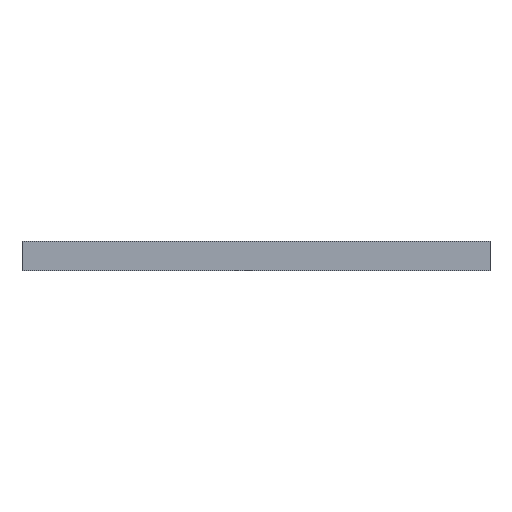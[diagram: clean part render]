
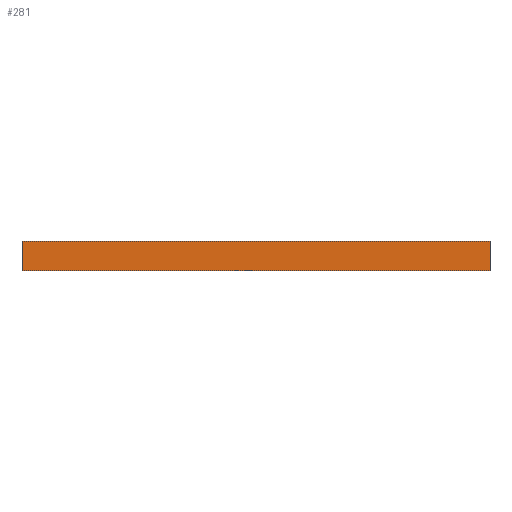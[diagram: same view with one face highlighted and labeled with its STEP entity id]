
A CAD part, front view. The second image highlights one B-rep face of the part: STEP entity #281.
In plain terms, the highlighted planar face has unit normal (0, -1, 0).
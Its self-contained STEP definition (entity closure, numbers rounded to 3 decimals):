
#141 = VERTEX_POINT ( 'NONE', #776 ) ;
#142 = VERTEX_POINT ( 'NONE', #775 ) ;
#267 = EDGE_CURVE ( 'NONE', #141, #303, #994, .T. ) ;
#268 = ORIENTED_EDGE ( 'NONE', *, *, #274, .F. ) ;
#271 = EDGE_LOOP ( 'NONE', ( #280, #268, #273, #282 ) ) ;
#273 = ORIENTED_EDGE ( 'NONE', *, *, #321, .F. ) ;
#274 = EDGE_CURVE ( 'NONE', #142, #304, #1003, .T. ) ;
#280 = ORIENTED_EDGE ( 'NONE', *, *, #305, .T. ) ;
#281 = ADVANCED_FACE ( 'NONE', ( #1076 ), #1043, .F. ) ;
#282 = ORIENTED_EDGE ( 'NONE', *, *, #267, .T. ) ;
#303 = VERTEX_POINT ( 'NONE', #1095 ) ;
#304 = VERTEX_POINT ( 'NONE', #1112 ) ;
#305 = EDGE_CURVE ( 'NONE', #303, #304, #1132, .T. ) ;
#321 = EDGE_CURVE ( 'NONE', #141, #142, #1116, .T. ) ;
#775 = CARTESIAN_POINT ( 'NONE',  ( 62.5, -110., 8. ) ) ;
#776 = CARTESIAN_POINT ( 'NONE',  ( -62.5, -110., 8. ) ) ;
#992 = VECTOR ( 'NONE', #1071, 1000. ) ;
#993 = CARTESIAN_POINT ( 'NONE',  ( -62.5, -110., 8. ) ) ;
#994 = LINE ( 'NONE', #993, #992 ) ;
#1000 = DIRECTION ( 'NONE',  ( 0., 0., -1. ) ) ;
#1001 = VECTOR ( 'NONE', #1000, 1000. ) ;
#1002 = CARTESIAN_POINT ( 'NONE',  ( 62.5, -110., 8. ) ) ;
#1003 = LINE ( 'NONE', #1002, #1001 ) ;
#1042 = AXIS2_PLACEMENT_3D ( 'NONE', #1051, #1050, #1049 ) ;
#1043 = PLANE ( 'NONE',  #1042 ) ;
#1049 = DIRECTION ( 'NONE',  ( 0., 0., 1. ) ) ;
#1050 = DIRECTION ( 'NONE',  ( 0., 1., 0. ) ) ;
#1051 = CARTESIAN_POINT ( 'NONE',  ( -62.5, -110., 8. ) ) ;
#1071 = DIRECTION ( 'NONE',  ( 0., 0., -1. ) ) ;
#1076 = FACE_OUTER_BOUND ( 'NONE', #271, .T. ) ;
#1095 = CARTESIAN_POINT ( 'NONE',  ( -62.5, -110., 0. ) ) ;
#1096 = VECTOR ( 'NONE', #1114, 1000. ) ;
#1097 = VECTOR ( 'NONE', #1140, 1000. ) ;
#1112 = CARTESIAN_POINT ( 'NONE',  ( 62.5, -110., 0. ) ) ;
#1114 = DIRECTION ( 'NONE',  ( 1., 0., 0. ) ) ;
#1115 = CARTESIAN_POINT ( 'NONE',  ( -62.5, -110., 8. ) ) ;
#1116 = LINE ( 'NONE', #1115, #1096 ) ;
#1131 = CARTESIAN_POINT ( 'NONE',  ( -62.5, -110., 0. ) ) ;
#1132 = LINE ( 'NONE', #1131, #1097 ) ;
#1140 = DIRECTION ( 'NONE',  ( 1., 0., 0. ) ) ;
